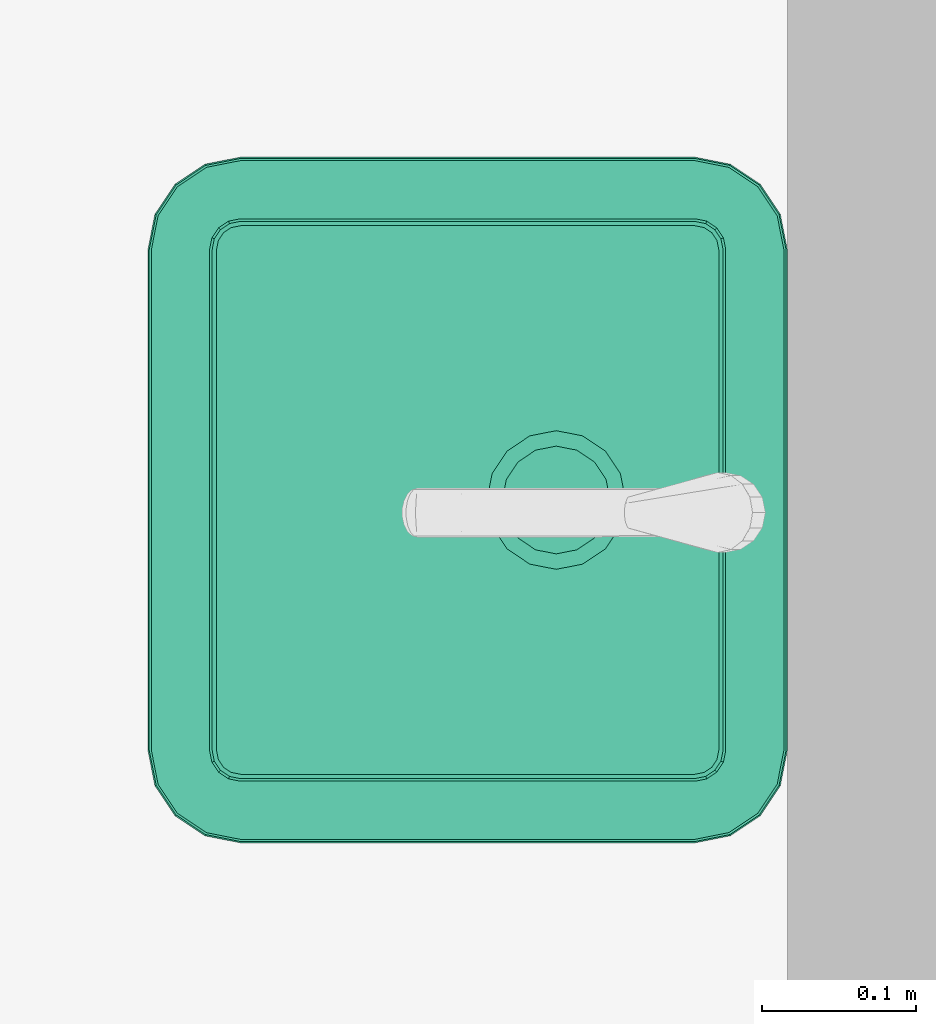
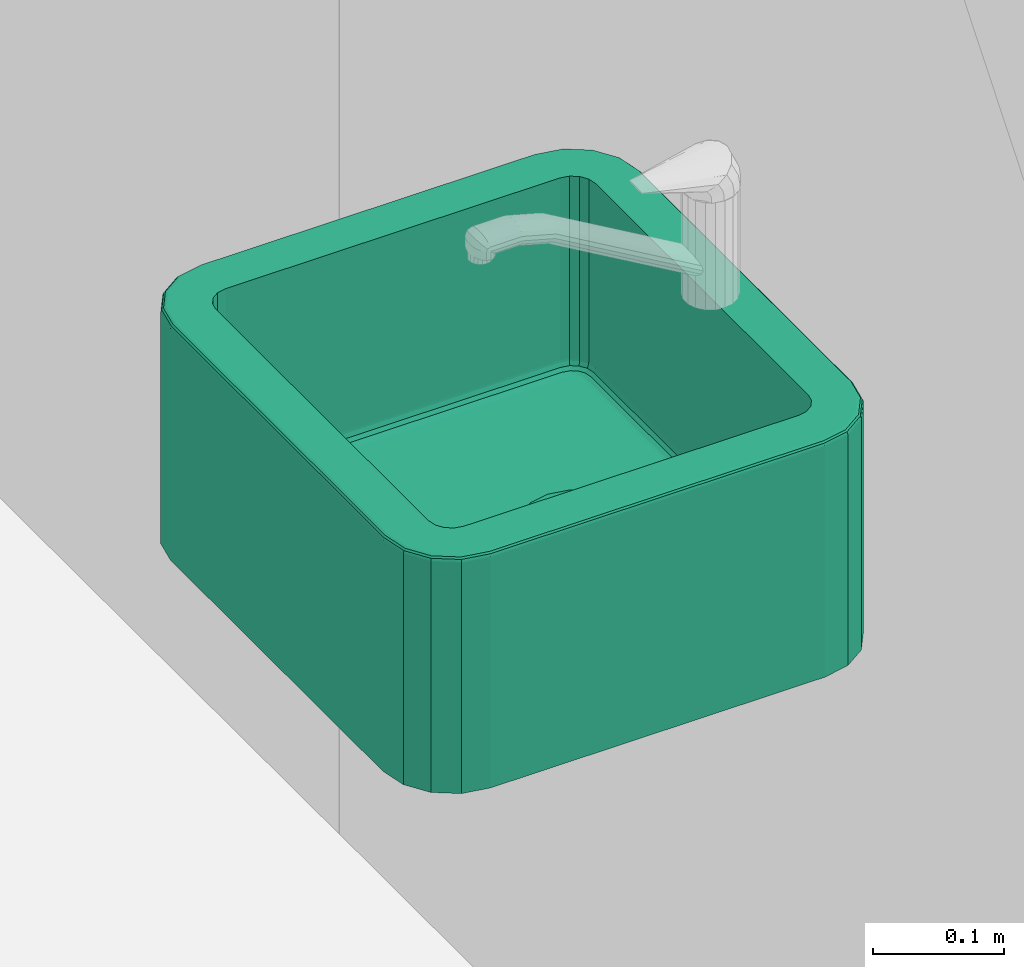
# One storey, part 86 of 127: 1 flow terminal.
"""IFC2X3 building model written with IfcOpenShell, lengths in millimetres."""

from ifc_helpers import new_model, entity, si_unit, converted_unit, derived_unit, money_unit, direction, frame, origin_with_axes, place, context, subcontext, project, spatial, faceted_brep, source, transform, mapped, type_object, element, save


model = new_model("IFC2X3")

# Units and contexts
model_context = context("Model", 3, precision=1e-05, world=origin_with_axes(), true_north=direction((0.0, 1.0)))
body_context = subcontext(model_context, "Body", "Model", "MODEL_VIEW")
ifc_project = project(units=[si_unit("LENGTHUNIT", "METRE", prefix="MILLI"), si_unit("AREAUNIT", "SQUARE_METRE"), si_unit("VOLUMEUNIT", "CUBIC_METRE"), converted_unit("PLANEANGLEUNIT", "DEGREE", entity("IfcPlaneAngleMeasure", 0.0174532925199), si_unit("PLANEANGLEUNIT", "RADIAN"), dimensions=[0, 0, 0, 0, 0, 0, 0]), si_unit("SOLIDANGLEUNIT", "STERADIAN"), money_unit("EUR"), converted_unit("TIMEUNIT", "Year", entity("IfcTimeMeasure", 31556926.0), si_unit("TIMEUNIT", "SECOND"), dimensions=[0, 0, 1, 0, 0, 0, 0]), si_unit("MASSUNIT", "GRAM", prefix="KILO"), si_unit("THERMODYNAMICTEMPERATUREUNIT", "DEGREE_CELSIUS"), si_unit("LUMINOUSINTENSITYUNIT", "LUMEN"), si_unit("ENERGYUNIT", "JOULE", prefix="MEGA"), derived_unit("THERMALCONDUCTANCEUNIT", [(si_unit("POWERUNIT", "WATT"), 1), (si_unit("LENGTHUNIT", "METRE"), -1), (si_unit("THERMODYNAMICTEMPERATUREUNIT", "KELVIN"), -1)]), derived_unit("SPECIFICHEATCAPACITYUNIT", [(si_unit("ENERGYUNIT", "JOULE"), 1), (si_unit("MASSUNIT", "GRAM", prefix="KILO"), -1), (si_unit("THERMODYNAMICTEMPERATUREUNIT", "KELVIN"), -1)]), derived_unit("MASSDENSITYUNIT", [(si_unit("MASSUNIT", "GRAM", prefix="KILO"), 1), (si_unit("VOLUMEUNIT", "CUBIC_METRE"), -1)])], contexts=[model_context])

# Site, building, storey
site_placement = place(None, origin_with_axes())
site = spatial("IfcSite", under=ifc_project, at=site_placement, Name="Site", CompositionType="ELEMENT")
building_placement = place(site_placement, origin_with_axes())
building = spatial("IfcBuilding", under=site, at=building_placement, Name="Building", CompositionType="ELEMENT")
storey_placement = place(building_placement, origin_with_axes())
storey = spatial("IfcBuildingStorey", under=building, at=storey_placement, Name="1 KORRUS", CompositionType="ELEMENT", Elevation=0.0)

# Flow terminal
sanitary_terminal_type = type_object("IfcSanitaryTerminalType", Name="Sink Belfast 22", PredefinedType="NOTDEFINED")
shared_shape = source(origin_with_axes(), body_context, "Body", "Brep", [
    faceted_brep([(21.1783900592, 393.821609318, 899.999999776), (9.27712238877, 376.010103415, 899.999999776), (4.99999698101, 354.50754327, 899.999999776), (4.99999698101, 60.4924569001, 899.999999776), (9.27712239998, 38.9898958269, 899.999999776), (21.1783900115, 21.1783900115, 899.999999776), (38.9898958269, 9.27712239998, 899.999999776), (60.4924569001, 4.99999698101, 899.999999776), (384.507543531, 4.99999698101, 899.999999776), (406.010103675, 9.27712238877, 899.999999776), (423.821609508, 21.1783900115, 899.999999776), (435.722877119, 38.9898958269, 899.999999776), (440.000002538, 60.4924569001, 899.999999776), (440.000002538, 354.50754327, 899.999999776), (435.72287713, 376.010103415, 899.999999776), (423.82160946, 393.821609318, 899.999999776), (406.010103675, 405.722877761, 899.999999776), (384.507543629, 410.000002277, 899.999999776), (222.499999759, 410.000002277, 899.999999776), (60.4924568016, 410.000002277, 899.999999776), (38.9898958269, 405.72287775, 899.999999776), (399.142135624, 369.142135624, 900.0), (403.47759065, 362.653668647, 900.0), (405.0, 355.0, 900.0), (405.0, 60.0, 900.0), (403.47759065, 52.3463313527, 900.0), (399.142135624, 45.8578643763, 900.0), (392.653668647, 41.5224093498, 900.0), (385.0, 40.0, 900.0), (60.0, 40.0, 900.0), (52.3463313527, 41.5224093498, 900.0), (45.8578643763, 45.8578643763, 900.0), (41.5224093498, 52.3463313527, 900.0), (40.0, 60.0, 900.0), (40.0, 355.0, 900.0), (41.5224093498, 362.653668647, 900.0), (45.8578643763, 369.142135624, 900.0), (52.3463313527, 373.47759065, 900.0), (60.0, 375.0, 900.0), (222.5, 375.0, 900.0), (385.0, 375.0, 900.0), (392.653668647, 373.47759065, 900.0), (20.4751302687, 394.524869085, 899.903926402), (8.3582692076, 376.390704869, 899.903926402), (4.02454764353, 354.60361665, 899.903926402), (4.02454764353, 60.396383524, 899.903926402), (8.35826921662, 38.6092943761, 899.903926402), (20.4751302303, 20.4751302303, 899.903926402), (38.6092943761, 8.35826921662, 899.903926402), (60.396383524, 4.02454764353, 899.903926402), (384.603616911, 4.02454764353, 899.903926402), (406.390705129, 8.3582692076, 899.903926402), (424.524869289, 20.4751302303, 899.903926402), (436.641730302, 38.6092943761, 899.903926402), (440.975451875, 60.396383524, 899.903926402), (440.975451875, 354.60361665, 899.903926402), (436.641730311, 376.390704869, 899.903926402), (424.52486925, 394.524869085, 899.903926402), (406.390705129, 406.64173095, 899.903926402), (384.60361699, 410.975451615, 899.903926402), (222.499999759, 410.975451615, 899.903926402), (60.3963834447, 410.975451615, 899.903926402), (38.6092943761, 406.641730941, 899.903926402), (399.142135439, 369.142135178, 730.0), (403.477591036, 362.653668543, 730.0), (404.999999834, 355.00000002, 730.0), (404.999999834, 60.0000000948, 730.0), (403.477591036, 52.3463315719, 730.0), (399.142135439, 45.8578640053, 730.0), (392.653668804, 41.5224093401, 730.0), (385.000000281, 39.9999996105, 730.0), (60.0000000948, 39.9999996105, 730.0), (52.3463315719, 41.5224093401, 730.0), (45.8578640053, 45.8578640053, 730.0), (41.5224093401, 52.3463315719, 730.0), (39.9999996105, 60.0000000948, 730.0), (39.9999996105, 355.00000002, 730.0), (41.5224093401, 362.653668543, 730.0), (45.8578640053, 369.142135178, 730.0), (52.3463315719, 373.477590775, 730.0), (60.0000000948, 374.999999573, 730.0), (222.499999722, 374.999999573, 730.0), (385.000000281, 374.999999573, 730.0), (392.653668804, 373.477590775, 730.0), (19.175673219, 395.824326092, 899.157348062), (6.66044678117, 377.093965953, 899.157348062), (2.22214896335, 354.781137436, 899.157348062), (2.22214896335, 60.2188627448, 899.157348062), (6.66044678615, 37.9060332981, 899.157348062), (19.1756731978, 19.1756731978, 899.157348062), (37.9060332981, 6.66044678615, 899.157348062), (60.2188627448, 2.22214896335, 899.157348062), (384.781137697, 2.22214896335, 899.157348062), (407.093966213, 6.66044678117, 899.157348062), (425.824326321, 19.1756731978, 899.157348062), (438.339552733, 37.9060332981, 899.157348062), (442.777850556, 60.2188627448, 899.157348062), (442.777850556, 354.781137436, 899.157348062), (438.339552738, 377.093965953, 899.157348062), (425.8243263, 395.824326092, 899.157348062), (407.093966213, 408.339553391, 899.157348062), (384.781137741, 412.777850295, 899.157348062), (222.499999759, 412.777850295, 899.157348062), (60.2188627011, 412.777850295, 899.157348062), (37.9060332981, 408.339553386, 899.157348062), (399.003605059, 369.003604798, 728.04909678), (403.296592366, 362.578696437, 728.04909678), (404.807852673, 354.981075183, 728.04909678), (404.807852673, 60.0189249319, 728.04909678), (403.296592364, 52.4213036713, 728.04909678), (399.003605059, 45.9963943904, 728.04909678), (392.578696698, 41.7034080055, 728.04909678), (384.981075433, 40.1921467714, 728.04909678), (60.0189249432, 40.1921467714, 728.04909678), (52.4213036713, 41.7034080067, 728.04909678), (45.9963943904, 45.9963943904, 728.04909678), (41.7034080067, 52.4213036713, 728.04909678), (40.1921467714, 60.0189249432, 728.04909678), (40.1921467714, 354.981075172, 728.04909678), (41.7034080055, 362.578696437, 728.04909678), (45.9963943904, 369.003604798, 728.04909678), (52.4213036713, 373.296592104, 728.04909678), (60.0189249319, 374.807852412, 728.04909678), (222.499999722, 374.807852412, 728.04909678), (384.981075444, 374.807852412, 728.04909678), (392.578696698, 373.296592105, 728.04909678), (18.1811110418, 396.818888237, 897.777851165), (5.36098869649, 377.632219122, 897.777851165), (0.842651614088, 354.917006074, 897.777851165), (0.842651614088, 60.0829941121, 897.777851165), (5.36098869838, 37.3677801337, 897.777851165), (18.1811110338, 18.1811110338, 897.777851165), (37.3677801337, 5.36098869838, 897.777851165), (60.0829941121, 0.842651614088, 897.777851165), (384.917006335, 0.842651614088, 897.777851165), (407.632219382, 5.36098869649, 897.777851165), (426.818888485, 18.1811110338, 897.777851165), (439.639010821, 37.3677801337, 897.777851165), (444.157347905, 60.0829941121, 897.777851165), (444.157347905, 354.917006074, 897.777851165), (439.639010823, 377.632219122, 897.777851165), (426.818888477, 396.818888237, 897.777851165), (407.632219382, 409.639011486, 897.777851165), (384.917006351, 414.157347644, 897.777851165), (222.499999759, 414.157347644, 897.777851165), (60.0829940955, 414.157347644, 897.777851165), (37.3677801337, 409.639011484, 897.777851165), (397.927098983, 367.927098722, 724.44429767), (401.890069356, 361.996095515, 724.44429767), (403.314695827, 354.83401212, 724.44429767), (403.314695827, 60.1659879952, 724.44429767), (401.890069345, 53.0039045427, 724.44429767), (397.927098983, 47.0729005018, 724.44429767), (391.996095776, 43.1099309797, 724.44429767), (384.834012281, 41.6853036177, 724.44429767), (60.1659880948, 41.6853036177, 724.44429767), (53.0039045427, 43.1099309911, 724.44429767), (47.0729005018, 47.0729005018, 724.44429767), (43.1099309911, 53.0039045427, 724.44429767), (41.6853036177, 60.1659880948, 724.44429767), (41.6853036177, 354.83401202, 724.44429767), (43.1099309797, 361.996095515, 724.44429767), (47.0729005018, 367.927098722, 724.44429767), (53.0039045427, 371.890069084, 724.44429767), (60.1659879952, 373.314695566, 724.44429767), (222.499999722, 373.314695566, 724.44429767), (384.834012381, 373.314695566, 724.44429767), (391.996095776, 371.890069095, 724.44429767), (17.6428579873, 397.357141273, 895.97545161), (4.65772720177, 377.923519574, 895.97545161), (0.0960731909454, 354.990537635, 895.97545161), (0.0960731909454, 60.009462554, 895.97545161), (4.65772720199, 37.0764796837, 895.97545161), (17.6428579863, 17.6428579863, 895.97545161), (37.0764796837, 4.65772720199, 895.97545161), (60.009462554, 0.0960731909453, 895.97545161), (384.990537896, 0.0960731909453, 895.97545161), (407.923519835, 4.65772720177, 895.97545161), (427.357141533, 17.6428579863, 895.97545161), (440.342272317, 37.0764796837, 895.97545161), (444.903926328, 60.009462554, 895.97545161), (444.903926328, 354.990537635, 895.97545161), (440.342272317, 377.923519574, 895.97545161), (427.357141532, 397.357141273, 895.97545161), (407.923519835, 410.342272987, 895.97545161), (384.990537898, 414.903926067, 895.97545161), (222.499999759, 414.903926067, 895.97545161), (60.0094625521, 414.903926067, 895.97545161), (37.0764796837, 410.342272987, 895.97545161), (395.937975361, 365.9379751, 721.685303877), (399.291154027, 360.91958951, 721.685303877), (400.55570206, 354.562275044, 721.685303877), (400.55570206, 60.437725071, 721.685303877), (399.291153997, 54.0804104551, 721.685303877), (395.937975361, 49.062024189, 721.685303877), (390.919589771, 45.7088462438, 721.685303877), (384.562275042, 44.4442973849, 721.685303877), (60.4377253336, 44.4442973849, 721.685303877), (54.0804104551, 45.7088462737, 721.685303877), (49.062024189, 49.062024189, 721.685303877), (45.7088462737, 54.0804104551, 721.685303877), (44.4442973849, 60.4377253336, 721.685303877), (44.4442973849, 354.562274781, 721.685303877), (45.7088462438, 360.91958951, 721.685303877), (49.062024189, 365.9379751, 721.685303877), (54.0804104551, 369.291153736, 721.685303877), (60.437725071, 370.555701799, 721.685303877), (222.499999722, 370.555701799, 721.685303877), (384.562275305, 370.555701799, 721.685303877), (390.919589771, 369.291153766, 721.685303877), (17.5735927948, 397.426406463, 895.0), (4.56722786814, 377.961005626, 895.0), (-3.89516363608e-07, 355.000000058, 895.0), (-3.89516363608e-07, 60.000000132, 895.0), (4.56722786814, 37.0389936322, 895.0), (17.5735927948, 17.5735927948, 895.0), (37.0389936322, 4.56722786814, 895.0), (60.000000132, -3.89516419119e-07, 895.0), (385.000000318, -3.89516419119e-07, 895.0), (407.961005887, 4.56722786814, 895.0), (427.426406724, 17.5735927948, 895.0), (440.432771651, 37.0389936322, 895.0), (444.999999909, 60.000000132, 895.0), (444.999999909, 355.000000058, 895.0), (440.432771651, 377.961005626, 895.0), (427.426406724, 397.426406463, 895.0), (407.961005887, 410.432772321, 895.0), (385.000000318, 414.999999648, 895.0), (222.499999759, 414.999999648, 895.0), (60.000000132, 414.999999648, 895.0), (37.0389936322, 410.432772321, 895.0), (393.339059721, 363.33905946, 720.192147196), (395.895507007, 359.513066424, 720.192147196), (396.950902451, 354.207233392, 720.192147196), (396.950902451, 60.7927667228, 720.192147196), (395.895506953, 55.4869334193, 720.192147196), (393.339059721, 51.6609399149, 720.192147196), (389.513066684, 49.104493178, 720.192147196), (384.207233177, 48.0490969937, 720.192147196), (60.7927671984, 48.0490969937, 720.192147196), (55.4869334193, 49.1044932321, 720.192147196), (51.6609399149, 51.6609399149, 720.192147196), (49.1044932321, 55.4869334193, 720.192147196), (48.0490969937, 60.7927671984, 720.192147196), (48.0490969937, 354.207232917, 720.192147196), (49.104493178, 359.513066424, 720.192147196), (51.6609399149, 363.33905946, 720.192147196), (55.4869334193, 365.895506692, 720.192147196), (60.7927667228, 366.95090219, 720.192147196), (222.499999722, 366.95090219, 720.192147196), (384.207233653, 366.95090219, 720.192147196), (389.513066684, 365.895506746, 720.192147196), (17.5735931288, 397.426406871, 680.0), (4.56722804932, 377.961005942, 680.0), (0.0, 355.0, 680.0), (0.0, 60.0, 680.0), (4.56722804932, 37.0389940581, 680.0), (17.5735931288, 17.5735931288, 680.0), (37.0389940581, 4.56722804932, 680.0), (60.0, 0.0, 680.0), (385.0, 0.0, 680.0), (407.961005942, 4.56722804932, 680.0), (427.426406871, 17.5735931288, 680.0), (440.432771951, 37.0389940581, 680.0), (445.0, 60.0, 680.0), (445.0, 355.0, 680.0), (440.432771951, 377.961005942, 680.0), (427.426406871, 397.426406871, 680.0), (407.961005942, 410.432771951, 680.0), (385.0, 415.0, 680.0), (222.5, 415.0, 680.0), (60.0, 415.0, 680.0), (37.0389940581, 410.432771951, 680.0), (391.932540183, 361.932539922, 720.000000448), (394.057800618, 358.751863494, 720.000000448), (395.000003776, 354.015086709, 720.000000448), (395.000003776, 60.9849134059, 720.000000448), (394.057800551, 56.2481362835, 720.000000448), (391.932540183, 53.0674594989, 720.000000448), (388.751863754, 50.9421995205, 720.000000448), (384.015086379, 49.9999956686, 720.000000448), (60.9849139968, 49.9999956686, 720.000000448), (56.2481362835, 50.9421995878, 720.000000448), (53.0674594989, 53.0674594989, 720.000000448), (50.9421995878, 56.2481362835, 720.000000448), (49.9999956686, 60.9849139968, 720.000000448), (49.9999956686, 354.015086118, 720.000000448), (50.9421995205, 358.751863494, 720.000000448), (53.0674594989, 361.932539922, 720.000000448), (56.2481362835, 364.05780029, 720.000000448), (60.9849134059, 365.000003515, 720.000000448), (222.499999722, 365.000003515, 720.000000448), (384.01508697, 365.000003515, 720.000000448), (388.751863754, 364.057800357, 720.000000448), (267.5, 265.0, 720.0), (264.074578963, 247.779245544, 720.0), (254.319805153, 233.180194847, 720.0), (239.720754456, 223.425421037, 720.0), (222.5, 220.0, 720.0), (205.279245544, 223.425421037, 720.0), (190.680194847, 233.180194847, 720.0), (180.925421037, 247.779245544, 720.0), (177.5, 265.0, 720.0), (180.925421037, 282.220754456, 720.0), (190.680194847, 296.819805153, 720.0), (205.279245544, 306.574578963, 720.0), (222.5, 310.0, 720.0), (239.720754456, 306.574578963, 720.0), (254.319805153, 296.819805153, 720.0), (264.074578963, 282.220754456, 720.0), (257.5, 265.0, 710.0), (254.835783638, 251.606079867, 710.0), (247.248737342, 240.251262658, 710.0), (235.893920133, 232.664216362, 710.0), (222.5, 230.0, 710.0), (209.106079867, 232.664216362, 710.0), (197.751262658, 240.251262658, 710.0), (190.164216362, 251.606079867, 710.0), (187.5, 265.0, 710.0), (190.164216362, 278.393920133, 710.0), (197.751262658, 289.748737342, 710.0), (209.106079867, 297.335783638, 710.0), (222.5, 300.0, 710.0), (235.893920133, 297.335783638, 710.0), (247.248737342, 289.748737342, 710.0), (254.835783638, 278.393920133, 710.0)], [[[0, 1, 2, 3, 4, 5, 6, 7, 8, 9, 10, 11, 12, 13, 14, 15, 16, 17, 18, 19, 20], [21, 22, 23, 24, 25, 26, 27, 28, 29, 30, 31, 32, 33, 34, 35, 36, 37, 38, 39, 40, 41]], [[0, 42, 43, 1]], [[1, 43, 44, 2]], [[2, 44, 45, 3]], [[3, 45, 46, 4]], [[4, 46, 47, 5]], [[5, 47, 48, 6]], [[6, 48, 49, 7]], [[7, 49, 50, 8]], [[8, 50, 51, 9]], [[9, 51, 52, 10]], [[10, 52, 53, 11]], [[11, 53, 54, 12]], [[12, 54, 55, 13]], [[13, 55, 56, 14]], [[14, 56, 57, 15]], [[15, 57, 58, 16]], [[16, 58, 59, 17]], [[17, 59, 60, 18]], [[18, 60, 61, 19]], [[19, 61, 62, 20]], [[20, 62, 42, 0]], [[22, 21, 63, 64]], [[23, 22, 64, 65]], [[24, 23, 65, 66]], [[25, 24, 66, 67]], [[26, 25, 67, 68]], [[27, 26, 68, 69]], [[28, 27, 69, 70]], [[29, 28, 70, 71]], [[30, 29, 71, 72]], [[31, 30, 72, 73]], [[32, 31, 73, 74]], [[33, 32, 74, 75]], [[34, 33, 75, 76]], [[35, 34, 76, 77]], [[36, 35, 77, 78]], [[37, 36, 78, 79]], [[38, 37, 79, 80]], [[39, 38, 80, 81]], [[40, 39, 81, 82]], [[41, 40, 82, 83]], [[21, 41, 83, 63]], [[42, 84, 85, 43]], [[43, 85, 86, 44]], [[44, 86, 87, 45]], [[45, 87, 88, 46]], [[46, 88, 89, 47]], [[47, 89, 90, 48]], [[48, 90, 91, 49]], [[49, 91, 92, 50]], [[50, 92, 93, 51]], [[51, 93, 94, 52]], [[52, 94, 95, 53]], [[53, 95, 96, 54]], [[54, 96, 97, 55]], [[55, 97, 98, 56]], [[56, 98, 99, 57]], [[57, 99, 100, 58]], [[58, 100, 101, 59]], [[59, 101, 102, 60]], [[60, 102, 103, 61]], [[61, 103, 104, 62]], [[62, 104, 84, 42]], [[64, 63, 105, 106]], [[65, 64, 106, 107]], [[66, 65, 107, 108]], [[67, 66, 108, 109]], [[68, 67, 109, 110]], [[69, 68, 110, 111]], [[70, 69, 111, 112]], [[71, 70, 112, 113]], [[72, 71, 113, 114]], [[73, 72, 114, 115]], [[74, 73, 115, 116]], [[75, 74, 116, 117]], [[76, 75, 117, 118]], [[77, 76, 118, 119]], [[78, 77, 119, 120]], [[79, 78, 120, 121]], [[80, 79, 121, 122]], [[81, 80, 122, 123]], [[82, 81, 123, 124]], [[83, 82, 124, 125]], [[63, 83, 125, 105]], [[84, 126, 127, 85]], [[85, 127, 128, 86]], [[86, 128, 129, 87]], [[87, 129, 130, 88]], [[88, 130, 131, 89]], [[89, 131, 132, 90]], [[90, 132, 133, 91]], [[91, 133, 134, 92]], [[92, 134, 135, 93]], [[93, 135, 136, 94]], [[94, 136, 137, 95]], [[95, 137, 138, 96]], [[96, 138, 139, 97]], [[97, 139, 140, 98]], [[98, 140, 141, 99]], [[99, 141, 142, 100]], [[100, 142, 143, 101]], [[101, 143, 144, 102]], [[102, 144, 145, 103]], [[103, 145, 146, 104]], [[104, 146, 126, 84]], [[106, 105, 147, 148]], [[107, 106, 148, 149]], [[108, 107, 149, 150]], [[109, 108, 150, 151]], [[110, 109, 151, 152]], [[111, 110, 152, 153]], [[112, 111, 153, 154]], [[113, 112, 154, 155]], [[114, 113, 155, 156]], [[115, 114, 156, 157]], [[116, 115, 157, 158]], [[117, 116, 158, 159]], [[118, 117, 159, 160]], [[119, 118, 160, 161]], [[120, 119, 161, 162]], [[121, 120, 162, 163]], [[122, 121, 163, 164]], [[123, 122, 164, 165]], [[124, 123, 165, 166]], [[125, 124, 166, 167]], [[105, 125, 167, 147]], [[126, 168, 169, 127]], [[127, 169, 170, 128]], [[128, 170, 171, 129]], [[129, 171, 172, 130]], [[130, 172, 173, 131]], [[131, 173, 174, 132]], [[132, 174, 175, 133]], [[133, 175, 176, 134]], [[134, 176, 177, 135]], [[135, 177, 178, 136]], [[136, 178, 179, 137]], [[137, 179, 180, 138]], [[138, 180, 181, 139]], [[139, 181, 182, 140]], [[140, 182, 183, 141]], [[141, 183, 184, 142]], [[142, 184, 185, 143]], [[143, 185, 186, 144]], [[144, 186, 187, 145]], [[145, 187, 188, 146]], [[146, 188, 168, 126]], [[148, 147, 189, 190]], [[149, 148, 190, 191]], [[150, 149, 191, 192]], [[151, 150, 192, 193]], [[152, 151, 193, 194]], [[153, 152, 194, 195]], [[154, 153, 195, 196]], [[155, 154, 196, 197]], [[156, 155, 197, 198]], [[157, 156, 198, 199]], [[158, 157, 199, 200]], [[159, 158, 200, 201]], [[160, 159, 201, 202]], [[161, 160, 202, 203]], [[162, 161, 203, 204]], [[163, 162, 204, 205]], [[164, 163, 205, 206]], [[165, 164, 206, 207]], [[166, 165, 207, 208]], [[167, 166, 208, 209]], [[147, 167, 209, 189]], [[168, 210, 211, 169]], [[169, 211, 212, 170]], [[170, 212, 213, 171]], [[171, 213, 214, 172]], [[172, 214, 215, 173]], [[173, 215, 216, 174]], [[174, 216, 217, 175]], [[175, 217, 218, 176]], [[176, 218, 219, 177]], [[177, 219, 220, 178]], [[178, 220, 221, 179]], [[179, 221, 222, 180]], [[180, 222, 223, 181]], [[181, 223, 224, 182]], [[182, 224, 225, 183]], [[183, 225, 226, 184]], [[184, 226, 227, 185]], [[185, 227, 228, 186]], [[186, 228, 229, 187]], [[187, 229, 230, 188]], [[188, 230, 210, 168]], [[190, 189, 231, 232]], [[191, 190, 232, 233]], [[192, 191, 233, 234]], [[193, 192, 234, 235]], [[194, 193, 235, 236]], [[195, 194, 236, 237]], [[196, 195, 237, 238]], [[197, 196, 238, 239]], [[198, 197, 239, 240]], [[199, 198, 240, 241]], [[200, 199, 241, 242]], [[201, 200, 242, 243]], [[202, 201, 243, 244]], [[203, 202, 244, 245]], [[204, 203, 245, 246]], [[205, 204, 246, 247]], [[206, 205, 247, 248]], [[207, 206, 248, 249]], [[208, 207, 249, 250]], [[209, 208, 250, 251]], [[189, 209, 251, 231]], [[210, 252, 253, 211]], [[211, 253, 254, 212]], [[212, 254, 255, 213]], [[213, 255, 256, 214]], [[214, 256, 257, 215]], [[215, 257, 258, 216]], [[216, 258, 259, 217]], [[217, 259, 260, 218]], [[218, 260, 261, 219]], [[219, 261, 262, 220]], [[220, 262, 263, 221]], [[221, 263, 264, 222]], [[222, 264, 265, 223]], [[223, 265, 266, 224]], [[224, 266, 267, 225]], [[225, 267, 268, 226]], [[226, 268, 269, 227]], [[227, 269, 270, 228]], [[228, 270, 271, 229]], [[229, 271, 272, 230]], [[230, 272, 252, 210]], [[232, 231, 273, 274]], [[233, 232, 274, 275]], [[234, 233, 275, 276]], [[235, 234, 276, 277]], [[236, 235, 277, 278]], [[237, 236, 278, 279]], [[238, 237, 279, 280]], [[239, 238, 280, 281]], [[240, 239, 281, 282]], [[241, 240, 282, 283]], [[242, 241, 283, 284]], [[243, 242, 284, 285]], [[244, 243, 285, 286]], [[245, 244, 286, 287]], [[246, 245, 287, 288]], [[247, 246, 288, 289]], [[248, 247, 289, 290]], [[249, 248, 290, 291]], [[250, 249, 291, 292]], [[251, 250, 292, 293]], [[231, 251, 293, 273]], [[257, 256, 255, 254, 253, 252, 272, 271, 270, 269, 268, 267, 266, 265, 264, 263, 262, 261, 260, 259, 258]], [[287, 286, 285, 284, 283, 282, 281, 280, 279, 278, 277, 276, 275, 274, 273, 293, 292, 291, 290, 289, 288], [294, 295, 296, 297, 298, 299, 300, 301, 302, 303, 304, 305, 306, 307, 308, 309]], [[295, 294, 310, 311]], [[296, 295, 311, 312]], [[297, 296, 312, 313]], [[298, 297, 313, 314]], [[299, 298, 314, 315]], [[300, 299, 315, 316]], [[301, 300, 316, 317]], [[302, 301, 317, 318]], [[303, 302, 318, 319]], [[304, 303, 319, 320]], [[305, 304, 320, 321]], [[306, 305, 321, 322]], [[307, 306, 322, 323]], [[308, 307, 323, 324]], [[309, 308, 324, 325]], [[294, 309, 325, 310]], [[321, 320, 319, 318, 317, 316, 315, 314, 313, 312, 311, 310, 325, 324, 323, 322]]]),
    faceted_brep([(254.835783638, 251.606079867, 710.0), (247.248737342, 240.251262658, 710.0), (235.893920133, 232.664216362, 710.0), (222.5, 230.0, 710.0), (209.106079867, 232.664216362, 710.0), (197.751262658, 240.251262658, 710.0), (190.164216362, 251.606079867, 710.0), (187.5, 265.0, 710.0), (190.164216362, 278.393920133, 710.0), (197.751262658, 289.748737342, 710.0), (209.106079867, 297.335783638, 710.0), (222.5, 300.0, 710.0), (235.893920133, 297.335783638, 710.0), (247.248737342, 289.748737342, 710.0), (254.835783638, 278.393920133, 710.0), (257.5, 265.0, 710.0), (254.835783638, 251.606079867, 720.0), (247.248737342, 240.251262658, 720.0), (235.893920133, 232.664216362, 720.0), (222.5, 230.0, 720.0), (209.106079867, 232.664216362, 720.0), (197.751262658, 240.251262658, 720.0), (190.164216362, 251.606079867, 720.0), (187.5, 265.0, 720.0), (190.164216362, 278.393920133, 720.0), (197.751262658, 289.748737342, 720.0), (209.106079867, 297.335783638, 720.0), (222.5, 300.0, 720.0), (235.893920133, 297.335783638, 720.0), (247.248737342, 289.748737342, 720.0), (254.835783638, 278.393920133, 720.0), (257.5, 265.0, 720.0)], [[[0, 1, 2, 3, 4, 5, 6, 7, 8, 9, 10, 11, 12, 13, 14, 15]], [[1, 0, 16, 17]], [[2, 1, 17, 18]], [[3, 2, 18, 19]], [[4, 3, 19, 20]], [[5, 4, 20, 21]], [[6, 5, 21, 22]], [[7, 6, 22, 23]], [[8, 7, 23, 24]], [[9, 8, 24, 25]], [[10, 9, 25, 26]], [[11, 10, 26, 27]], [[12, 11, 27, 28]], [[13, 12, 28, 29]], [[14, 13, 29, 30]], [[15, 14, 30, 31]], [[0, 15, 31, 16]], [[16, 31, 30, 29, 28, 27, 26, 25, 24, 23, 22, 21, 20, 19, 18, 17]]]),
])
flow_terminal_placement = place(storey_placement, frame((69668.0903094, 43841.8320786, 0.0), z_axis=(0.0, 0.0, 1.0), x_axis=(0.0, -1.0, 0.0)))
element("IfcFlowTerminal", 1, at=flow_terminal_placement, inside=storey, type_object=sanitary_terminal_type, Name="Valamu", context=body_context, shape_type="MappedRepresentation", body=[
    mapped(shared_shape, transform((0.0, 0.0, 0.0))),
])

save(model, "model.ifc")
